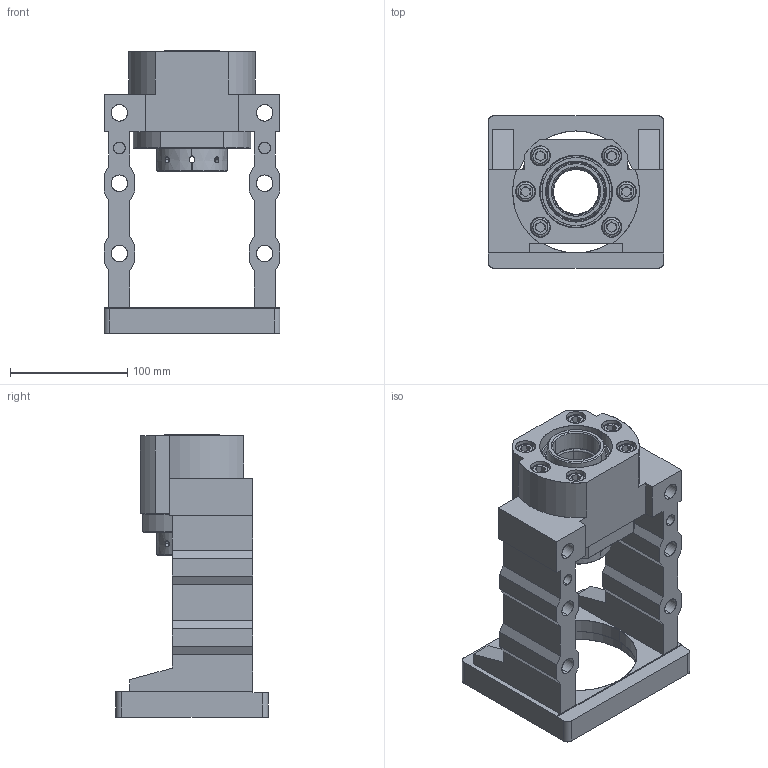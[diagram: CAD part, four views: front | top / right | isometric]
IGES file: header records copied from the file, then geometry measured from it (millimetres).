
Start section: SolidWorks IGES file using analytic representation for surfaces
Bounding box: 150 x 130 x 241 mm (x, y, z)
Surface area: 216320.9 mm2 (no closed solid volume)
Topology: 0 solids, 0 shells, 342 faces, 6092 edges, 6084 vertices
Faces by surface type: revolution 184, bspline 158
